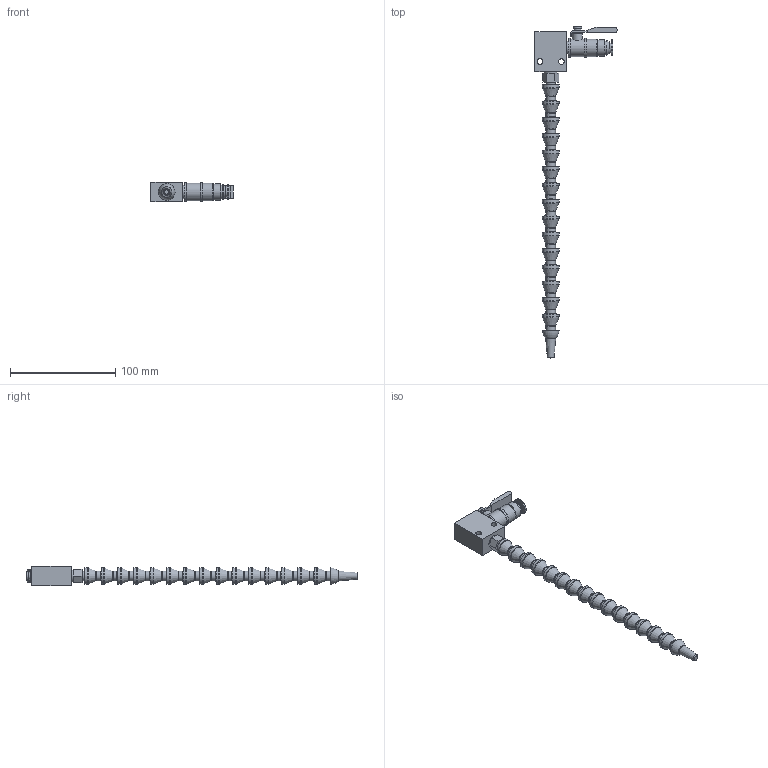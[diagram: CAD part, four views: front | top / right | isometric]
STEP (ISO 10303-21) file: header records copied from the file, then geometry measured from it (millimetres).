
FILE_DESCRIPTION(('STEP AP214'), '1');
FILE_NAME('Òðóáêà ÑÎÆ ñ îñíîâàíèåì ZCL-1', '', ('UNSPECIFIED'), ('UNSPECIFIED'), 'ASCON STEP Converter 1.6', 'ASCON Math Kernel', '');
FILE_SCHEMA(('AUTOMOTIVE_DESIGN { 1 0 10303 214 3 1 1}'));
Length unit declared in the file: millimetre
Bounding box: 78.1 x 315.58 x 19 mm (x, y, z)
Volume: 62952.4 mm3; surface area: 23107 mm2
Topology: 1 solids, 1 shells, 184 faces, 358 edges, 211 vertices
Faces by surface type: plane 59, cylinder 58, torus 51, cone 16
Full cylindrical faces by diameter (mm): 5.5 x2, 7 x2, 8 x2, 8.9 x1, 9.2 x15, 9.5 x1, 9.6 x1, 11.7 x1, 12 x2, 12.5 x1, 13.7 x1, 15 x1, 15.8 x16, 16.5 x1, 16.7 x1, 17.8 x2
Entity records: 5765 total; most frequent: CARTESIAN_POINT 826, DIRECTION 775, ORIENTED_EDGE 480, AXIS2_PLACEMENT_3D 352, EDGE_LOOP 341, EDGE_CURVE 240, FACE_OUTER_BOUND 233, VERTEX_POINT 211
